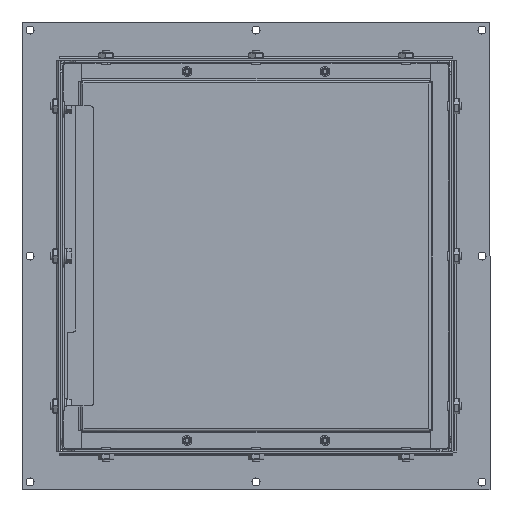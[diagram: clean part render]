
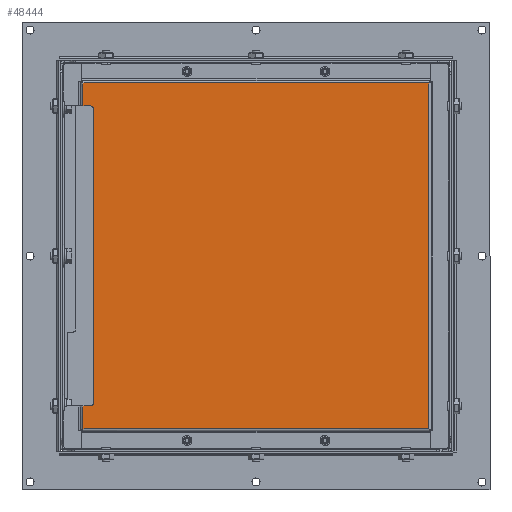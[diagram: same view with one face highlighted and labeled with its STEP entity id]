
A CAD part, front view. The second image highlights one B-rep face of the part: STEP entity #48444.
In plain terms, the highlighted planar face has unit normal (0, -1, 0).
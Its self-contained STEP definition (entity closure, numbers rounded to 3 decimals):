
#427 = EDGE_CURVE ( 'NONE', #38319, #55161, #20180, .T. ) ;
#1612 = AXIS2_PLACEMENT_3D ( 'NONE', #40680, #40081, #16821 ) ;
#2537 = CARTESIAN_POINT ( 'NONE',  ( -173., -50., -173. ) ) ;
#3092 = VECTOR ( 'NONE', #38697, 1000. ) ;
#4183 = LINE ( 'NONE', #41230, #26885 ) ;
#4333 = ORIENTED_EDGE ( 'NONE', *, *, #16152, .T. ) ;
#4604 = LINE ( 'NONE', #52018, #15583 ) ;
#6024 = CARTESIAN_POINT ( 'NONE',  ( -173., -50., -150. ) ) ;
#6085 = EDGE_CURVE ( 'NONE', #26537, #35300, #51159, .T. ) ;
#6806 = ORIENTED_EDGE ( 'NONE', *, *, #25384, .T. ) ;
#7717 = CARTESIAN_POINT ( 'NONE',  ( -165.5, -50., -150. ) ) ;
#7908 = CIRCLE ( 'NONE', #45805, 3. ) ;
#8578 = DIRECTION ( 'NONE',  ( 1., 0., 0. ) ) ;
#10450 = FACE_OUTER_BOUND ( 'NONE', #28529, .T. ) ;
#12409 = VERTEX_POINT ( 'NONE', #42930 ) ;
#12949 = ORIENTED_EDGE ( 'NONE', *, *, #427, .T. ) ;
#15274 = CARTESIAN_POINT ( 'NONE',  ( 173., -50., 173. ) ) ;
#15583 = VECTOR ( 'NONE', #28785, 1000. ) ;
#15772 = ORIENTED_EDGE ( 'NONE', *, *, #33872, .T. ) ;
#16152 = EDGE_CURVE ( 'NONE', #56848, #45186, #30015, .T. ) ;
#16217 = CARTESIAN_POINT ( 'NONE',  ( -165.5, -50., -150. ) ) ;
#16821 = DIRECTION ( 'NONE',  ( 0., 0., -1. ) ) ;
#17303 = DIRECTION ( 'NONE',  ( 0., 1., 0. ) ) ;
#17503 = CARTESIAN_POINT ( 'NONE',  ( -173., -50., -150. ) ) ;
#17843 = CARTESIAN_POINT ( 'NONE',  ( -173., -50., 150. ) ) ;
#18680 = EDGE_CURVE ( 'NONE', #12409, #26537, #7908, .T. ) ;
#18958 = ORIENTED_EDGE ( 'NONE', *, *, #26460, .T. ) ;
#20180 = LINE ( 'NONE', #49139, #31100 ) ;
#20343 = CARTESIAN_POINT ( 'NONE',  ( -173., -50., -173. ) ) ;
#21180 = EDGE_CURVE ( 'NONE', #45186, #12409, #4183, .T. ) ;
#22615 = CARTESIAN_POINT ( 'NONE',  ( -165.5, -50., 150. ) ) ;
#23148 = VERTEX_POINT ( 'NONE', #44417 ) ;
#23608 = DIRECTION ( 'NONE',  ( 0., 1., 0. ) ) ;
#23687 = ORIENTED_EDGE ( 'NONE', *, *, #6085, .T. ) ;
#23996 = VECTOR ( 'NONE', #8578, 1000. ) ;
#24668 = LINE ( 'NONE', #36239, #37757 ) ;
#25384 = EDGE_CURVE ( 'NONE', #55161, #23148, #4604, .T. ) ;
#26460 = EDGE_CURVE ( 'NONE', #35300, #26589, #28642, .T. ) ;
#26537 = VERTEX_POINT ( 'NONE', #16217 ) ;
#26589 = VERTEX_POINT ( 'NONE', #20343 ) ;
#26885 = VECTOR ( 'NONE', #45704, 1000. ) ;
#27870 = CARTESIAN_POINT ( 'NONE',  ( -165.5, -50., -147. ) ) ;
#28529 = EDGE_LOOP ( 'NONE', ( #45665, #23687, #18958, #39158, #12949, #6806, #15772, #36844, #4333, #50377 ) ) ;
#28642 = LINE ( 'NONE', #6024, #3092 ) ;
#28785 = DIRECTION ( 'NONE',  ( -1., 0., 0. ) ) ;
#30015 = CIRCLE ( 'NONE', #53925, 3. ) ;
#30469 = PLANE ( 'NONE',  #1612 ) ;
#30519 = DIRECTION ( 'NONE',  ( 1., 0., 0. ) ) ;
#31100 = VECTOR ( 'NONE', #49555, 1000. ) ;
#31389 = DIRECTION ( 'NONE',  ( -1., 0., 0. ) ) ;
#33690 = CARTESIAN_POINT ( 'NONE',  ( -162.5, -50., 147. ) ) ;
#33872 = EDGE_CURVE ( 'NONE', #23148, #55767, #24668, .T. ) ;
#35300 = VERTEX_POINT ( 'NONE', #17503 ) ;
#36239 = CARTESIAN_POINT ( 'NONE',  ( -173., -50., 173. ) ) ;
#36844 = ORIENTED_EDGE ( 'NONE', *, *, #40787, .T. ) ;
#37757 = VECTOR ( 'NONE', #54370, 1000. ) ;
#38204 = CARTESIAN_POINT ( 'NONE',  ( 173., -50., -173. ) ) ;
#38319 = VERTEX_POINT ( 'NONE', #38204 ) ;
#38697 = DIRECTION ( 'NONE',  ( 0., 0., -1. ) ) ;
#39158 = ORIENTED_EDGE ( 'NONE', *, *, #48127, .T. ) ;
#40081 = DIRECTION ( 'NONE',  ( 0., -1., 0. ) ) ;
#40680 = CARTESIAN_POINT ( 'NONE',  ( -165.5, -50., -147. ) ) ;
#40787 = EDGE_CURVE ( 'NONE', #55767, #56848, #49492, .T. ) ;
#41127 = VECTOR ( 'NONE', #30519, 1000. ) ;
#41230 = CARTESIAN_POINT ( 'NONE',  ( -162.5, -50., 147. ) ) ;
#41332 = DIRECTION ( 'NONE',  ( 0., 0., -1. ) ) ;
#42021 = CARTESIAN_POINT ( 'NONE',  ( -173., -50., 150. ) ) ;
#42930 = CARTESIAN_POINT ( 'NONE',  ( -162.5, -50., -147. ) ) ;
#44417 = CARTESIAN_POINT ( 'NONE',  ( -173., -50., 173. ) ) ;
#45186 = VERTEX_POINT ( 'NONE', #33690 ) ;
#45293 = VECTOR ( 'NONE', #31389, 1000. ) ;
#45665 = ORIENTED_EDGE ( 'NONE', *, *, #18680, .T. ) ;
#45704 = DIRECTION ( 'NONE',  ( 0., 0., -1. ) ) ;
#45805 = AXIS2_PLACEMENT_3D ( 'NONE', #27870, #23608, #47018 ) ;
#46196 = LINE ( 'NONE', #2537, #41127 ) ;
#47018 = DIRECTION ( 'NONE',  ( 0., 0., -1. ) ) ;
#48127 = EDGE_CURVE ( 'NONE', #26589, #38319, #46196, .T. ) ;
#48444 = ADVANCED_FACE ( 'NONE', ( #10450 ), #30469, .T. ) ;
#49139 = CARTESIAN_POINT ( 'NONE',  ( 173., -50., -173. ) ) ;
#49492 = LINE ( 'NONE', #42021, #23996 ) ;
#49555 = DIRECTION ( 'NONE',  ( 0., 0., 1. ) ) ;
#50377 = ORIENTED_EDGE ( 'NONE', *, *, #21180, .T. ) ;
#51159 = LINE ( 'NONE', #7717, #45293 ) ;
#52018 = CARTESIAN_POINT ( 'NONE',  ( 173., -50., 173. ) ) ;
#53925 = AXIS2_PLACEMENT_3D ( 'NONE', #59219, #17303, #41332 ) ;
#54370 = DIRECTION ( 'NONE',  ( 0., 0., -1. ) ) ;
#55161 = VERTEX_POINT ( 'NONE', #15274 ) ;
#55767 = VERTEX_POINT ( 'NONE', #17843 ) ;
#56848 = VERTEX_POINT ( 'NONE', #22615 ) ;
#59219 = CARTESIAN_POINT ( 'NONE',  ( -165.5, -50., 147. ) ) ;
